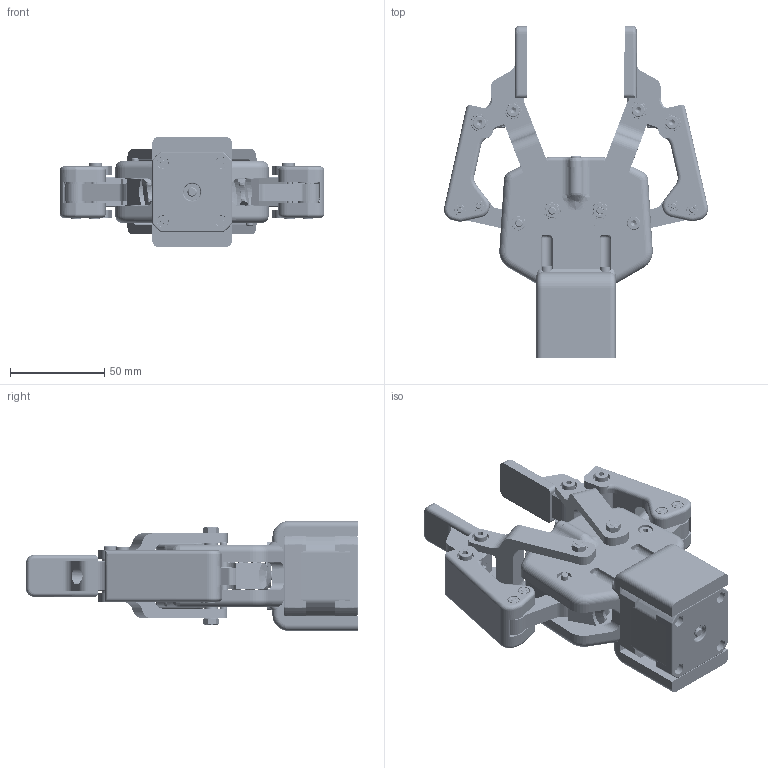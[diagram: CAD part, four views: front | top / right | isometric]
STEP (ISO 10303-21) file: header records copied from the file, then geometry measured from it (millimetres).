
FILE_DESCRIPTION(/* description */ ('STEP AP214'),/* implementation_level */ '2;1');
FILE_NAME(/* name */ 'pinza_adattativa3.stp',/* time_stamp */ '2024-12-26T08:18:22+01:00',/* author */ ('R5800u'),/* organization */ (''),/* preprocessor_version */ 'ST-DEVELOPER v20',/* originating_system */ 'Autodesk Inventor 2025',/* authorisation */ '');
FILE_SCHEMA (('AUTOMOTIVE_DESIGN { 1 0 10303 214 3 1 1 }'));
Length unit declared in the file: millimetre
Products named in the file (24): pinza_adattativa3; nema17; Defeatured 2F-85 PAD OPEN_finger2.step; Defeatured 2F-85 PAD OPEN_finger4.step; Defeatured 2F-85 PAD OPEN_fingertips.step; Defeatured 2F-85 PAD OPEN_Finger1.step; finger3; blocco_superiore; cassa2; Assieme2; Vite; Ingranaggio a vite; AS 1420 - 1973 - M4 x 20; AS 1420 - 1973 - M3 x 12; AS 1420 - 1973 - M4 x 30; %3% BS 290 - SKF 618/8; AS 1420 - 1973 - M4 x 14; %3% BS 290 - SKF 618/4; AS 1420 - 1973 - M4 x 25; AS 1420 - 1973 - M3 x 20; AS 1112 - M3  Tipo 5; AS 1112 - M4  Tipo 5; distanziale_3mm; ANSI B27.7M - 3CMI-4
Assembly tree (80 placements, depth 3):
  pinza_adattativa3
    nema17
    Defeatured 2F-85 PAD OPEN_finger2.step  x2
    Defeatured 2F-85 PAD OPEN_finger4.step  x2
    Defeatured 2F-85 PAD OPEN_fingertips.step  x2
    Defeatured 2F-85 PAD OPEN_Finger1.step  x2
    finger3  x2
    blocco_superiore
    cassa2
    Assieme2
      Vite
      Ingranaggio a vite  x2
    AS 1420 - 1973 - M4 x 20  x2
    AS 1420 - 1973 - M3 x 12  x6
    %3% BS 290 - SKF 618/4  x20
    AS 1420 - 1973 - M4 x 30  x2
    %3% BS 290 - SKF 618/8
    AS 1420 - 1973 - M4 x 14  x4
    AS 1420 - 1973 - M4 x 25  x4
    AS 1420 - 1973 - M3 x 20  x4
    AS 1112 - M4  Tipo 5  x8
    AS 1112 - M3  Tipo 5  x4
    distanziale_3mm  x4
    ANSI B27.7M - 3CMI-4  x4
Bounding box: 139.81 x 175.73 x 58 mm (x, y, z)
Volume: 293739.4 mm3; surface area: 140343.9 mm2
Topology: 81 solids, 81 shells, 2676 faces, 7660 edges, 4967 vertices
Faces by surface type: plane 811, cylinder 711, torus 495, cone 337, sphere 168, bspline 154
Full cylindrical faces by diameter (mm): 2.459 x6, 2.5 x4, 3 x14, 3.2 x6, 3.242 x8, 3.4 x10, 3.5 x8, 4 x36, 4.3 x8, 4.5 x2, 5 x9, 5.3 x2, 5.5 x10, 5.6 x40, 6 x18, 6.5 x8, 7 x18, 7.4 x40, 8 x12, 8.5 x10, 9 x38, 10.56 x2, 12 x1, 12.544 x6, 13.44 x2, 16 x2, 21.952 x6, 22 x1, 24 x1, 35 x1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
Entity records: 42275 total; most frequent: CARTESIAN_POINT 14037, ORIENTED_EDGE 5734, DIRECTION 5535, EDGE_CURVE 2867, AXIS2_PLACEMENT_3D 2216, VERTEX_POINT 1859, EDGE_LOOP 1306, FACE_OUTER_BOUND 1115
